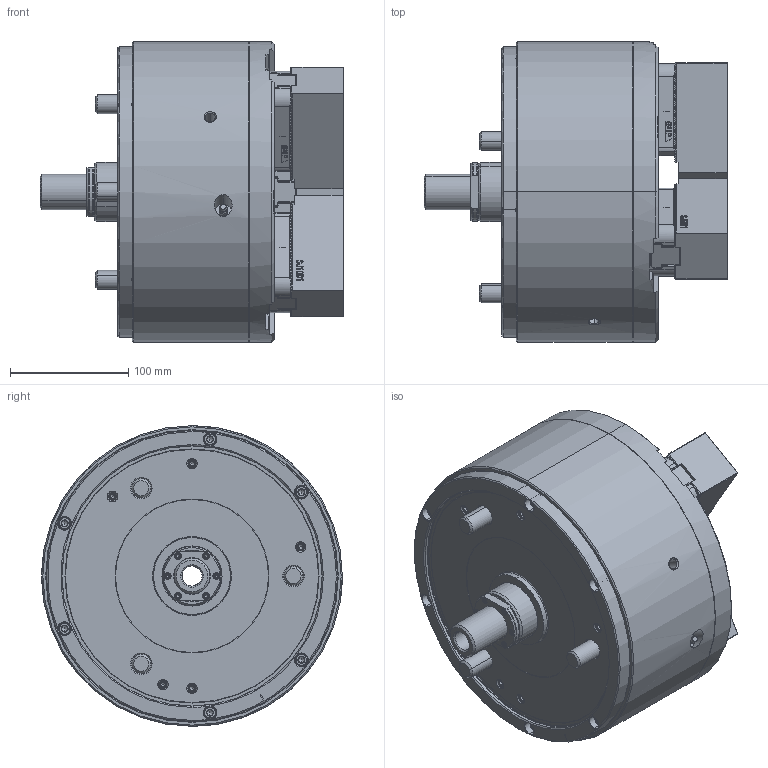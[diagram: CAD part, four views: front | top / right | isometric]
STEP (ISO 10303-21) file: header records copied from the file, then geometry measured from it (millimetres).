
FILE_DESCRIPTION (( 'STEP AP214' ), '1' );
FILE_NAME ('DL210_CL.STEP', '2022-09-08T00:54:49', ( '' ), ( '' ), 'SwSTEP 2.0', 'SolidWorks 2020', '' );
FILE_SCHEMA (( 'AUTOMOTIVE_DESIGN' ));
Length unit declared in the file: millimetre
Products named in the file (5): 61P458879; DL210_CL; 0030114040; 61P390757; 結合DL210_CL^DL210
Assembly tree (13 placements, depth 2):
  DL210_CL
    61P390757  x3
    61P458879  x3
    0030114040  x6
    結合DL210_CL^DL210
Bounding box: 256.8 x 254 x 254 mm (x, y, z)
Volume: 7083656.1 mm3; surface area: 474865.4 mm2
Topology: 13 solids, 57 shells, 6020 faces, 16568 edges, 10779 vertices
Faces by surface type: plane 3769, cylinder 825, bspline 710, cone 678, torus 38
Entity records: 175928 total; most frequent: CARTESIAN_POINT 59271, ORIENTED_EDGE 26380, DIRECTION 20618, EDGE_CURVE 13190, VECTOR 8988, LINE 8988, VERTEX_POINT 8664, AXIS2_PLACEMENT_3D 5815
